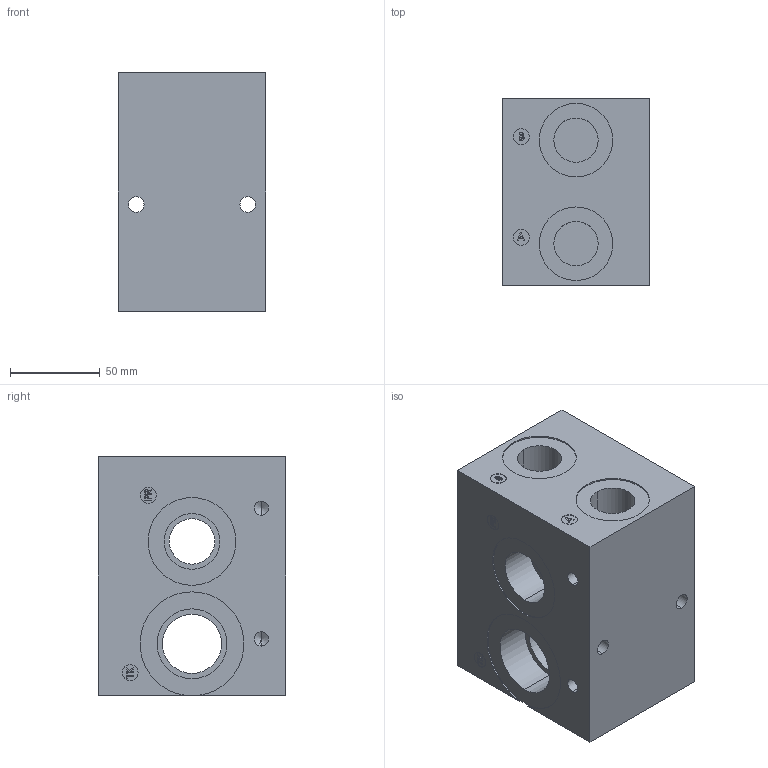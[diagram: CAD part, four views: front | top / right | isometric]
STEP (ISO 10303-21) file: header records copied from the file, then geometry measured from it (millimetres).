
FILE_DESCRIPTION (( 'STEP AP203' ), '1' );
FILE_NAME ('BM-AHP05S3-01-1_Z.STEP', '2015-01-06T15:59:27', ( '' ), ( '' ), 'SwSTEP 2.0', 'SolidWorks 2014', '' );
FILE_SCHEMA (( 'CONFIG_CONTROL_DESIGN' ));
Length unit declared in the file: inch
Products named in the file (1): BM-AHP05S3-01-1_Z
Bounding box: 82.55 x 104.65 x 133.35 mm (x, y, z)
Volume: 969157.4 mm3; surface area: 94506.7 mm2
Topology: 1 solids, 1 shells, 273 faces, 672 edges, 428 vertices
Faces by surface type: plane 141, cylinder 79, bspline 29, cone 24
Entity records: 9661 total; most frequent: CARTESIAN_POINT 3275, ORIENTED_EDGE 1296, DIRECTION 1238, EDGE_CURVE 648, VECTOR 432, LINE 432, VERTEX_POINT 428, AXIS2_PLACEMENT_3D 403
